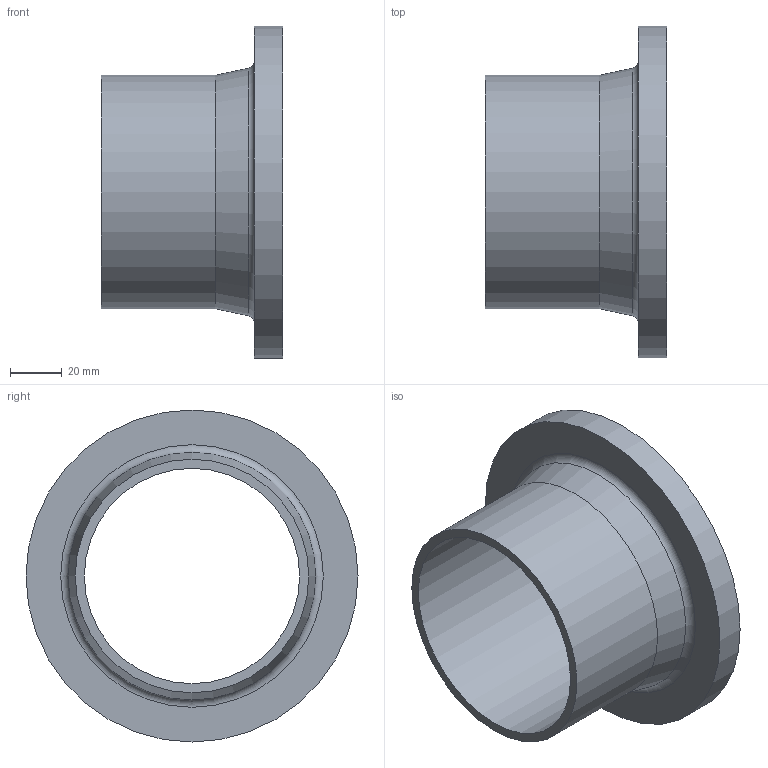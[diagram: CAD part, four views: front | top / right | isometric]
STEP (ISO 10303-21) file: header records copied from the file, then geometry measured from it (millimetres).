
FILE_DESCRIPTION(/* description */ (''),/* implementation_level */ '2;1');
FILE_NAME(/* name */ 'Z:\Geberit\Export\NewStep\366744.stp',/* time_stamp */ '2014-04-02T07:54:44+02:00',/* author */ ('nelson'),/* organization */ (''),/* preprocessor_version */ 'ST-DEVELOPER v15.2',/* originating_system */ 'Autodesk Inventor 2014',/* authorisation */ '');
FILE_SCHEMA (('AUTOMOTIVE_DESIGN { 1 0 10303 214 3 1 1 }'));
Length unit declared in the file: millimetre
Products named in the file (1): 366744
Bounding box: 70 x 128 x 128 mm (x, y, z)
Volume: 144429.1 mm3; surface area: 54178.8 mm2
Topology: 1 solids, 1 shells, 17 faces, 28 edges, 17 vertices
Faces by surface type: cone 7, plane 6, cylinder 3, torus 1
Full cylindrical faces by diameter (mm): 83 x1, 90 x1, 128 x1
Entity records: 386 total; most frequent: DIRECTION 70, CARTESIAN_POINT 52, AXIS2_PLACEMENT_3D 35, EDGE_LOOP 34, ORIENTED_EDGE 34, FACE_BOUND 21, STYLED_ITEM 18, CIRCLE 17
